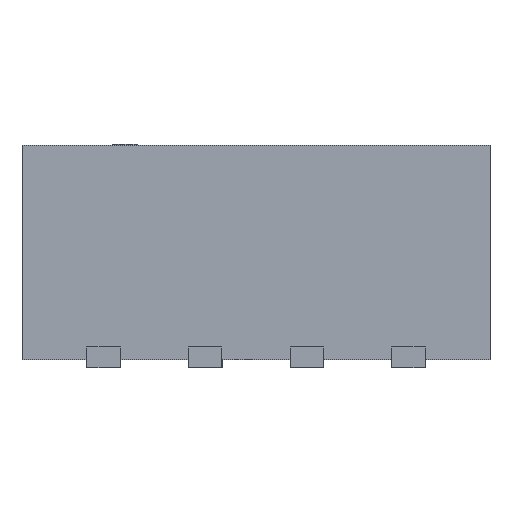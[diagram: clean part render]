
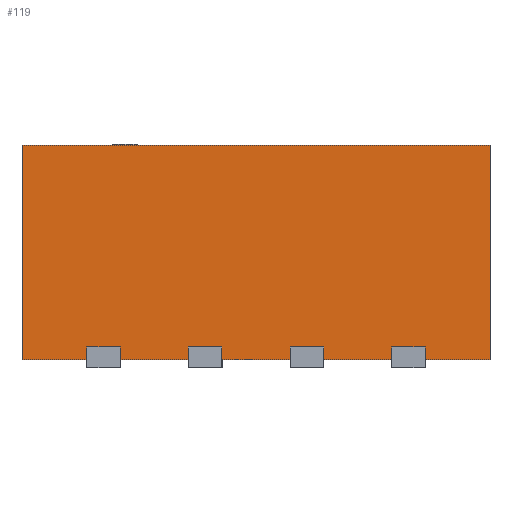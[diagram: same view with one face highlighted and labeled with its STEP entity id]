
A CAD part, left-side view. The second image highlights one B-rep face of the part: STEP entity #119.
In plain terms, the highlighted planar face has unit normal (-1, 0, 0).
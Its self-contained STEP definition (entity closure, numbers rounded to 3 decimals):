
#21 = EDGE_CURVE('',#22,#24,#26,.T.);
#22 = VERTEX_POINT('',#23);
#23 = CARTESIAN_POINT('',(-3.75,-2.925,0.12));
#24 = VERTEX_POINT('',#25);
#25 = CARTESIAN_POINT('',(-3.75,-2.925,2.8));
#26 = LINE('',#27,#28);
#27 = CARTESIAN_POINT('',(-3.75,-2.925,0.12));
#28 = VECTOR('',#29,1.);
#29 = DIRECTION('',(0.,0.,1.));
#94 = VERTEX_POINT('',#95);
#95 = CARTESIAN_POINT('',(-3.75,2.925,2.8));
#101 = EDGE_CURVE('',#102,#94,#104,.T.);
#102 = VERTEX_POINT('',#103);
#103 = CARTESIAN_POINT('',(-3.75,2.925,0.12));
#104 = LINE('',#105,#106);
#105 = CARTESIAN_POINT('',(-3.75,2.925,0.12));
#106 = VECTOR('',#107,1.);
#107 = DIRECTION('',(0.,0.,1.));
#119 = ADVANCED_FACE('',(#120),#136,.F.);
#120 = FACE_BOUND('',#121,.F.);
#121 = EDGE_LOOP('',(#122,#123,#129,#130));
#122 = ORIENTED_EDGE('',*,*,#101,.T.);
#123 = ORIENTED_EDGE('',*,*,#124,.T.);
#124 = EDGE_CURVE('',#94,#24,#125,.T.);
#125 = LINE('',#126,#127);
#126 = CARTESIAN_POINT('',(-3.75,2.925,2.8));
#127 = VECTOR('',#128,1.);
#128 = DIRECTION('',(0.,-1.,0.));
#129 = ORIENTED_EDGE('',*,*,#21,.F.);
#130 = ORIENTED_EDGE('',*,*,#131,.F.);
#131 = EDGE_CURVE('',#102,#22,#132,.T.);
#132 = LINE('',#133,#134);
#133 = CARTESIAN_POINT('',(-3.75,2.925,0.12));
#134 = VECTOR('',#135,1.);
#135 = DIRECTION('',(0.,-1.,0.));
#136 = PLANE('',#137);
#137 = AXIS2_PLACEMENT_3D('',#138,#139,#140);
#138 = CARTESIAN_POINT('',(-3.75,2.925,0.12));
#139 = DIRECTION('',(1.,0.,-0.));
#140 = DIRECTION('',(0.,-1.,0.));
